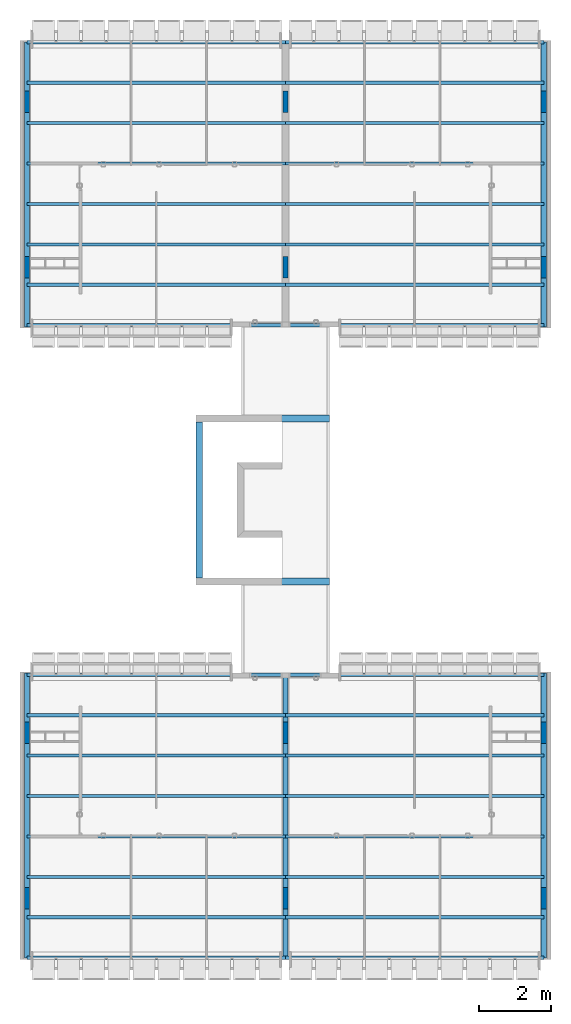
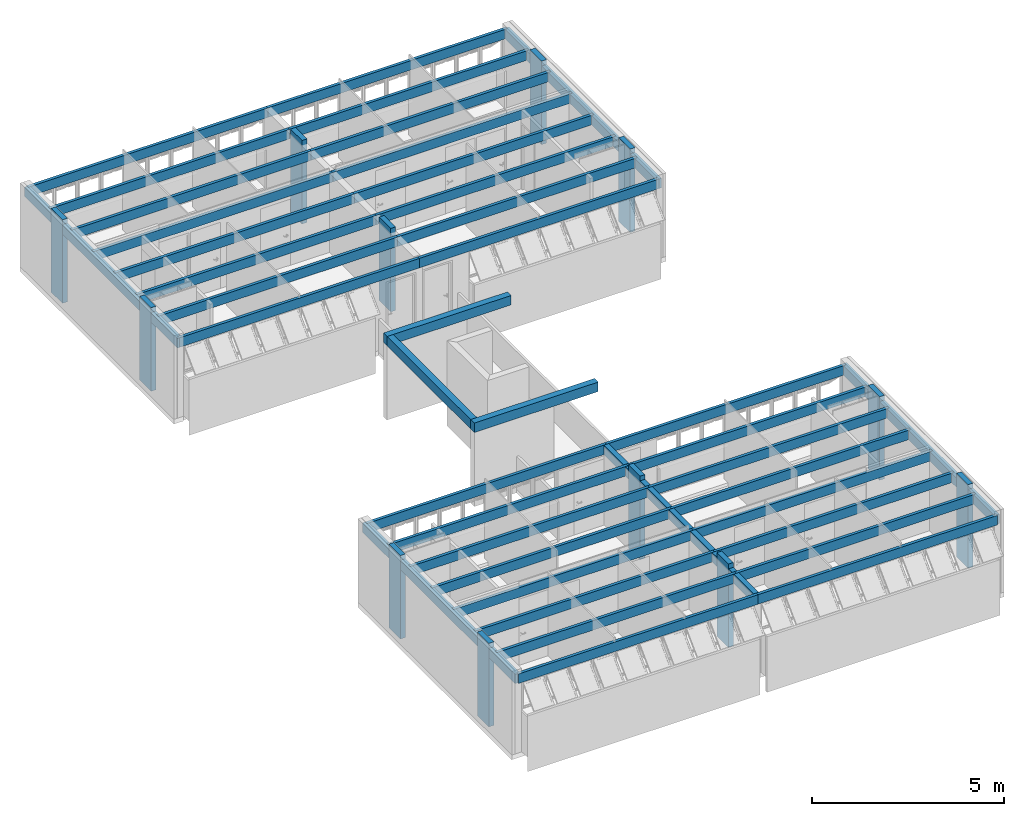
# One storey, part 1 of 40: 40 beams, 12 columns.
"""IFC4 building model written with IfcOpenShell, lengths in millimetres."""

from ifc_helpers import new_model, entity, si_unit, converted_unit, derived_unit, direction, frame, frame_2d, origin_with_axes, origin_2d_with_axis, place, context, subcontext, project, spatial, rectangle, extrude, material, type_object, element, save


model = new_model("IFC4")

# Units and contexts
model_context = context("Model", 3, precision=0.01, world=origin_with_axes(), true_north=direction((0.0, 1.0)))
body_context = subcontext(model_context, "Body", "Model", "MODEL_VIEW")
ifc_project = project(units=[si_unit("LENGTHUNIT", "METRE", prefix="MILLI"), si_unit("AREAUNIT", "SQUARE_METRE"), si_unit("VOLUMEUNIT", "CUBIC_METRE"), converted_unit("PLANEANGLEUNIT", "DEGREE", entity("IfcPlaneAngleMeasure", 0.0174532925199), si_unit("PLANEANGLEUNIT", "RADIAN"), dimensions=[0, 0, 0, 0, 0, 0, 0]), converted_unit("TIMEUNIT", "Year", entity("IfcTimeMeasure", 31556926.0), si_unit("TIMEUNIT", "SECOND"), dimensions=[0, 0, 1, 0, 0, 0, 0]), si_unit("MASSUNIT", "GRAM", prefix="KILO"), si_unit("THERMODYNAMICTEMPERATUREUNIT", "DEGREE_CELSIUS"), si_unit("LUMINOUSINTENSITYUNIT", "LUMEN"), si_unit("ENERGYUNIT", "JOULE", prefix="MEGA"), derived_unit("THERMALCONDUCTANCEUNIT", [(si_unit("POWERUNIT", "WATT"), 1), (si_unit("LENGTHUNIT", "METRE"), -1), (si_unit("THERMODYNAMICTEMPERATUREUNIT", "KELVIN"), -1)]), derived_unit("SPECIFICHEATCAPACITYUNIT", [(si_unit("ENERGYUNIT", "JOULE"), 1), (si_unit("MASSUNIT", "GRAM", prefix="KILO"), -1), (si_unit("THERMODYNAMICTEMPERATUREUNIT", "KELVIN"), -1)]), derived_unit("MASSDENSITYUNIT", [(si_unit("MASSUNIT", "GRAM", prefix="KILO"), 1), (si_unit("VOLUMEUNIT", "CUBIC_METRE"), -1)])], contexts=[model_context])

# Site, building, storey
site_placement = place(None, origin_with_axes())
site = spatial("IfcSite", under=ifc_project, at=site_placement, Name="Local", CompositionType="ELEMENT")
building_placement = place(site_placement, origin_with_axes())
building = spatial("IfcBuilding", under=site, at=building_placement, Name="Construção", CompositionType="ELEMENT")
storey_placement = place(building_placement, frame((0.0, 0.0, 5300.0), z_axis=(0.0, 0.0, 1.0), x_axis=(1.0, 0.0, 0.0)))
storey = spatial("IfcBuildingStorey", under=building, at=storey_placement, Name="Terceiro Pavimento", CompositionType="ELEMENT", Elevation=5300.0)

# Columns
ifc_material = material(Name="Concreto Armado Moldado in Loco - Estrutural")
column_type = type_object("IfcColumnType", Name="Concreto Armado Moldado in Loco - Estrutural 600 x 150", PredefinedType="NOTDEFINED")
column_1_placement = place(storey_placement, frame((7385.0, 2000.0, 0.0), z_axis=(0.0, 0.0, 1.0), x_axis=(0.0, -1.0, 0.0)))
element("IfcColumn", 1, at=column_1_placement, inside=storey, type_object=column_type, material=ifc_material, Name="CIRC3-PILAR-002", PredefinedType="NOTDEFINED", context=body_context, shape_type="SweptSolid", body=[
    extrude(rectangle(XDim=600.0, YDim=150.0, at=origin_2d_with_axis()), origin_with_axes(), (0.0, 0.0, 1.0), 2650.0),
])
column_2_placement = place(storey_placement, frame((7385.0, 19560.0, 0.0), z_axis=(0.0, 0.0, 1.0), x_axis=(0.0, -1.0, 0.0)))
element("IfcColumn", 2, at=column_2_placement, inside=storey, type_object=column_type, material=ifc_material, Name="CIRC3-PILAR-004", PredefinedType="NOTDEFINED", context=body_context, shape_type="SweptSolid", body=[
    extrude(rectangle(XDim=600.0, YDim=150.0, at=origin_2d_with_axis()), frame((0.0, 0.0, 0.0), z_axis=(0.0, 0.0, -1.0), x_axis=(-1.0, 0.0, 0.0)), (0.0, 0.0, -1.0), 2650.0),
])
column_3_placement = place(storey_placement, frame((7385.0, 6600.0, 0.0), z_axis=(0.0, 0.0, 1.0), x_axis=(0.0, -1.0, 0.0)))
element("IfcColumn", 3, at=column_3_placement, inside=storey, type_object=column_type, material=ifc_material, Name="CIRC3-PILAR-003", PredefinedType="NOTDEFINED", context=body_context, shape_type="SweptSolid", body=[
    extrude(rectangle(XDim=600.0, YDim=150.0, at=origin_2d_with_axis()), origin_with_axes(), (0.0, 0.0, 1.0), 2650.0),
])
column_4_placement = place(storey_placement, frame((7385.0, 24160.0, 0.0), z_axis=(0.0, 0.0, 1.0), x_axis=(0.0, -1.0, 0.0)))
element("IfcColumn", 4, at=column_4_placement, inside=storey, type_object=column_type, material=ifc_material, Name="CIRC3-PILAR-005", PredefinedType="NOTDEFINED", context=body_context, shape_type="SweptSolid", body=[
    extrude(rectangle(XDim=600.0, YDim=150.0, at=origin_2d_with_axis()), frame((0.0, 0.0, 0.0), z_axis=(0.0, 0.0, -1.0), x_axis=(-1.0, 0.0, 0.0)), (0.0, 0.0, -1.0), 2650.0),
])
for number, where, z_axis, x_axis, name in (
    (5, (195.0, 2000.0, 0.0), (0.0, 0.0, 1.0), (0.0, -1.0, 0.0), "APTO9-PILAR-000"),
    (6, (195.0, 6600.0, 0.0), (0.0, 0.0, 1.0), (0.0, -1.0, 0.0), "APTO9-PILAR-001"),
):
    element("IfcColumn", number, at=place(storey_placement, frame(where, z_axis=z_axis, x_axis=x_axis)), inside=storey, type_object=column_type, material=ifc_material, Name=name, PredefinedType="NOTDEFINED", context=body_context, shape_type="SweptSolid", body=[
        extrude(rectangle(XDim=600.0, YDim=150.0, at=origin_2d_with_axis()), origin_with_axes(), (0.0, 0.0, 1.0), 2650.0),
    ])
for number, where, z_axis, x_axis, name in (
    (7, (14575.0, 2000.0, 0.0), (0.0, 0.0, 1.0), (0.0, 1.0, 0.0), "APTO10-PILAR-000"),
    (8, (14575.0, 6600.0, 0.0), (0.0, 0.0, 1.0), (0.0, 1.0, 0.0), "APTO10-PILAR-001"),
    (9, (195.0, 24160.0, 0.0), (0.0, 0.0, 1.0), (0.0, -1.0, 0.0), "APTO11-PILAR-000"),
    (10, (195.0, 19560.0, 0.0), (0.0, 0.0, 1.0), (0.0, -1.0, 0.0), "APTO11-PILAR-001"),
):
    element("IfcColumn", number, at=place(storey_placement, frame(where, z_axis=z_axis, x_axis=x_axis)), inside=storey, type_object=column_type, material=ifc_material, Name=name, PredefinedType="NOTDEFINED", context=body_context, shape_type="SweptSolid", body=[
        extrude(rectangle(XDim=600.0, YDim=150.0, at=origin_2d_with_axis()), frame((0.0, 0.0, 0.0), z_axis=(0.0, 0.0, -1.0), x_axis=(-1.0, 0.0, 0.0)), (0.0, 0.0, -1.0), 2650.0),
    ])
for number, where, z_axis, x_axis, name in (
    (11, (14575.0, 24160.0, 0.0), (0.0, 0.0, 1.0), (0.0, 1.0, 0.0), "APTO12-PILAR-000"),
    (12, (14575.0, 19560.0, 0.0), (0.0, 0.0, 1.0), (0.0, 1.0, 0.0), "APTO12-PILAR-001"),
):
    element("IfcColumn", number, at=place(storey_placement, frame(where, z_axis=z_axis, x_axis=x_axis)), inside=storey, type_object=column_type, material=ifc_material, Name=name, PredefinedType="NOTDEFINED", context=body_context, shape_type="SweptSolid", body=[
        extrude(rectangle(XDim=600.0, YDim=150.0, at=origin_2d_with_axis()), origin_with_axes(), (0.0, 0.0, 1.0), 2650.0),
    ])

# Beams
beam_type_1 = type_object("IfcBeamType", Name="Concreto Armado Moldado in Loco - Estrutural 150 x 300", PredefinedType="NOTDEFINED")
for number, where, z_axis, x_axis, name in (
    (13, (7460.0, 8265.0, 2500.0), (0.0, 0.0, 1.0), (-1.0, 0.0, 0.0), "CIRC3-VIGA-012"),
    (14, (270.0, 8265.0, 2500.0), (0.0, 0.0, 1.0), (-1.0, 0.0, 0.0), "APTO9-VIGA-009"),
):
    element("IfcBeam", number, at=place(storey_placement, frame(where, z_axis=z_axis, x_axis=x_axis)), inside=storey, type_object=beam_type_1, material=ifc_material, Name=name, PredefinedType="NOTDEFINED", context=body_context, shape_type="SweptSolid", body=[
        extrude(rectangle(XDim=300.0, YDim=150.0, at=frame_2d((-150.0, 75.0), x_axis=(1.0, 0.0))), frame((0.0, 0.0, 0.0), z_axis=(0.0, 1.0, 0.0), x_axis=(0.0, 0.0, 1.0)), (0.0, 0.0, 1.0), 7929.97902127),
    ])
for number, where, z_axis, x_axis, name in (
    (15, (14500.0, 8265.0, 2500.0), (0.0, 0.0, 1.0), (-1.0, 0.0, 0.0), "APTO10-VIGA-009"),
    (16, (270.0, 17895.0, 2500.0), (0.0, 0.0, 1.0), (1.0, 0.0, 0.0), "APTO11-VIGA-009"),
):
    element("IfcBeam", number, at=place(storey_placement, frame(where, z_axis=z_axis, x_axis=x_axis)), inside=storey, type_object=beam_type_1, material=ifc_material, Name=name, PredefinedType="NOTDEFINED", context=body_context, shape_type="SweptSolid", body=[
        extrude(rectangle(XDim=300.0, YDim=150.0, at=frame_2d((-150.0, -75.0), x_axis=(1.0, 0.0))), frame((0.0, 0.0, 0.0), z_axis=(0.0, 1.0, 0.0), x_axis=(0.0, 0.0, 1.0)), (0.0, 0.0, 1.0), 7929.97902127),
    ])
beam_1_placement = place(storey_placement, frame((14500.0, 17895.0, 2500.0), z_axis=(0.0, 0.0, 1.0), x_axis=(1.0, 0.0, 0.0)))
element("IfcBeam", 17, at=beam_1_placement, inside=storey, type_object=beam_type_1, material=ifc_material, Name="APTO12-VIGA-009", PredefinedType="NOTDEFINED", context=body_context, shape_type="SweptSolid", body=[
    extrude(rectangle(XDim=300.0, YDim=150.0, at=frame_2d((-150.0, 75.0), x_axis=(1.0, 0.0))), frame((0.0, 0.0, 0.0), z_axis=(0.0, 1.0, 0.0), x_axis=(0.0, 0.0, 1.0)), (0.0, 0.0, 1.0), 7929.97902127),
])
beam_type_2 = type_object("IfcBeamType", Name="Concreto Armado Moldado in Loco - Estrutural 90 x 300", PredefinedType="NOTDEFINED")
for number, where, z_axis, x_axis, name in (
    (18, (195.0, 390.0, 2500.0), (0.0, 0.0, 1.0), (0.0, -1.0, 0.0), "APTO9-VIGA-001"),
    (19, (195.0, 1515.0, 2500.0), (0.0, 0.0, 1.0), (0.0, -1.0, 0.0), "APTO9-VIGA-002"),
    (20, (195.0, 2640.0, 2500.0), (0.0, 0.0, 1.0), (0.0, -1.0, 0.0), "APTO9-VIGA-003"),
    (21, (195.0, 3765.2195667, 2500.0), (0.0, 0.0, 1.0), (0.0, -1.0, 0.0), "APTO9-VIGA-004"),
    (22, (195.0, 4890.0, 2500.0), (0.0, 0.0, 1.0), (0.0, -1.0, 0.0), "APTO9-VIGA-005"),
    (23, (195.0, 8265.0, 2500.0), (0.0, 0.0, 1.0), (0.0, -1.0, 0.0), "APTO9-VIGA-008"),
    (24, (195.0, 6015.0, 2500.0), (0.0, 0.0, 1.0), (0.0, -1.0, 0.0), "APTO9-VIGA-006"),
    (25, (195.0, 7140.0, 2500.0), (0.0, 0.0, 1.0), (0.0, -1.0, 0.0), "APTO9-VIGA-007"),
):
    element("IfcBeam", number, at=place(storey_placement, frame(where, z_axis=z_axis, x_axis=x_axis)), inside=storey, type_object=beam_type_2, material=ifc_material, Name=name, PredefinedType="NOTDEFINED", context=body_context, shape_type="SweptSolid", body=[
        extrude(rectangle(XDim=300.0, YDim=90.0, at=frame_2d((-150.0, 45.0), x_axis=(1.0, 0.0))), frame((0.0, 0.0, 0.0), z_axis=(0.0, 1.0, 0.0), x_axis=(0.0, 0.0, 1.0)), (0.0, 0.0, 1.0), 7190.0),
    ])
for number, where, z_axis, x_axis, name in (
    (26, (14575.0, 390.0, 2500.0), (0.0, 0.0, 1.0), (0.0, 1.0, 0.0), "APTO10-VIGA-001"),
    (27, (14575.0, 1515.0, 2500.0), (0.0, 0.0, 1.0), (0.0, 1.0, 0.0), "APTO10-VIGA-002"),
    (28, (14575.0, 2640.0, 2500.0), (0.0, 0.0, 1.0), (0.0, 1.0, 0.0), "APTO10-VIGA-003"),
    (29, (14575.0, 3765.2195667, 2500.0), (0.0, 0.0, 1.0), (0.0, 1.0, 0.0), "APTO10-VIGA-004"),
    (30, (14575.0, 4890.0, 2500.0), (0.0, 0.0, 1.0), (0.0, 1.0, 0.0), "APTO10-VIGA-005"),
    (31, (14575.0, 8265.0, 2500.0), (0.0, 0.0, 1.0), (0.0, 1.0, 0.0), "APTO10-VIGA-008"),
    (32, (14575.0, 6015.0, 2500.0), (0.0, 0.0, 1.0), (0.0, 1.0, 0.0), "APTO10-VIGA-006"),
    (33, (14575.0, 7140.0, 2500.0), (0.0, 0.0, 1.0), (0.0, 1.0, 0.0), "APTO10-VIGA-007"),
    (34, (195.0, 25770.0, 2500.0), (0.0, 0.0, 1.0), (0.0, -1.0, 0.0), "APTO11-VIGA-001"),
    (35, (195.0, 24645.0, 2500.0), (0.0, 0.0, 1.0), (0.0, -1.0, 0.0), "APTO11-VIGA-002"),
    (36, (195.0, 23520.0, 2500.0), (0.0, 0.0, 1.0), (0.0, -1.0, 0.0), "APTO11-VIGA-003"),
    (37, (195.0, 22394.7804333, 2500.0), (0.0, 0.0, 1.0), (0.0, -1.0, 0.0), "APTO11-VIGA-004"),
    (38, (195.0, 21270.0, 2500.0), (0.0, 0.0, 1.0), (0.0, -1.0, 0.0), "APTO11-VIGA-005"),
    (39, (195.0, 17895.0, 2500.0), (0.0, 0.0, 1.0), (0.0, -1.0, 0.0), "APTO11-VIGA-008"),
    (40, (195.0, 20145.0, 2500.0), (0.0, 0.0, 1.0), (0.0, -1.0, 0.0), "APTO11-VIGA-006"),
    (41, (195.0, 19020.0, 2500.0), (0.0, 0.0, 1.0), (0.0, -1.0, 0.0), "APTO11-VIGA-007"),
):
    element("IfcBeam", number, at=place(storey_placement, frame(where, z_axis=z_axis, x_axis=x_axis)), inside=storey, type_object=beam_type_2, material=ifc_material, Name=name, PredefinedType="NOTDEFINED", context=body_context, shape_type="SweptSolid", body=[
        extrude(rectangle(XDim=300.0, YDim=90.0, at=frame_2d((-150.0, -45.0), x_axis=(1.0, 0.0))), frame((0.0, 0.0, 0.0), z_axis=(0.0, 1.0, 0.0), x_axis=(0.0, 0.0, 1.0)), (0.0, 0.0, 1.0), 7190.0),
    ])
for number, where, z_axis, x_axis, name in (
    (42, (14575.0, 25770.0, 2500.0), (0.0, 0.0, 1.0), (0.0, 1.0, 0.0), "APTO12-VIGA-001"),
    (43, (14575.0, 24645.0, 2500.0), (0.0, 0.0, 1.0), (0.0, 1.0, 0.0), "APTO12-VIGA-002"),
    (44, (14575.0, 23520.0, 2500.0), (0.0, 0.0, 1.0), (0.0, 1.0, 0.0), "APTO12-VIGA-003"),
    (45, (14575.0, 22394.7804333, 2500.0), (0.0, 0.0, 1.0), (0.0, 1.0, 0.0), "APTO12-VIGA-004"),
    (46, (14575.0, 21270.0, 2500.0), (0.0, 0.0, 1.0), (0.0, 1.0, 0.0), "APTO12-VIGA-005"),
    (47, (14575.0, 17895.0, 2500.0), (0.0, 0.0, 1.0), (0.0, 1.0, 0.0), "APTO12-VIGA-008"),
    (48, (14575.0, 20145.0, 2500.0), (0.0, 0.0, 1.0), (0.0, 1.0, 0.0), "APTO12-VIGA-006"),
    (49, (14575.0, 19020.0, 2500.0), (0.0, 0.0, 1.0), (0.0, 1.0, 0.0), "APTO12-VIGA-007"),
):
    element("IfcBeam", number, at=place(storey_placement, frame(where, z_axis=z_axis, x_axis=x_axis)), inside=storey, type_object=beam_type_2, material=ifc_material, Name=name, PredefinedType="NOTDEFINED", context=body_context, shape_type="SweptSolid", body=[
        extrude(rectangle(XDim=300.0, YDim=90.0, at=frame_2d((-150.0, 45.0), x_axis=(1.0, 0.0))), frame((0.0, 0.0, 0.0), z_axis=(0.0, 1.0, 0.0), x_axis=(0.0, 0.0, 1.0)), (0.0, 0.0, 1.0), 7190.0),
    ])
beam_type_3 = type_object("IfcBeamType", Name="Concreto Armado Moldado in Loco - Estrutural 190 x 300", PredefinedType="NOTDEFINED")
for number, where, z_axis, x_axis, name in (
    (50, (4890.0, 10815.0, 2350.0), (0.0, 0.0, 1.0), (0.0, -1.0, 0.0), "CIRC3-VIGA-016"),
    (51, (4890.0, 15345.0, 2350.0), (0.0, 0.0, 1.0), (0.0, -1.0, 0.0), "CIRC3-VIGA-018"),
):
    element("IfcBeam", number, at=place(storey_placement, frame(where, z_axis=z_axis, x_axis=x_axis)), inside=storey, type_object=beam_type_3, material=ifc_material, Name=name, PredefinedType="NOTDEFINED", context=body_context, shape_type="SweptSolid", body=[
        extrude(rectangle(XDim=300.0, YDim=190.0, at=origin_2d_with_axis()), frame((0.0, 0.0, 0.0), z_axis=(0.0, 1.0, 0.0), x_axis=(0.0, 0.0, 1.0)), (0.0, 0.0, 1.0), 3720.0),
    ])
beam_2_placement = place(storey_placement, frame((4985.0, 15345.0, 2350.0), z_axis=(0.0, 0.0, 1.0), x_axis=(-1.0, 0.0, 0.0)))
element("IfcBeam", 52, at=beam_2_placement, inside=storey, type_object=beam_type_3, material=ifc_material, Name="CIRC3-VIGA-017", PredefinedType="NOTDEFINED", context=body_context, shape_type="SweptSolid", body=[
    extrude(rectangle(XDim=300.0, YDim=190.0, at=origin_2d_with_axis()), frame((0.0, 0.0, 0.0), z_axis=(0.0, 1.0, 0.0), x_axis=(0.0, 0.0, 1.0)), (0.0, 0.0, 1.0), 4530.0),
])

save(model, "model.ifc")
